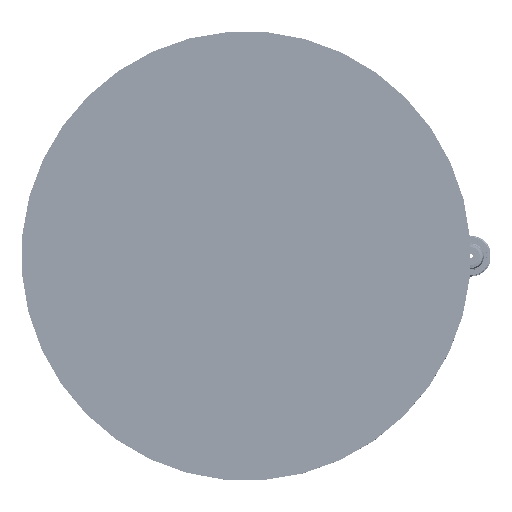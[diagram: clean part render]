
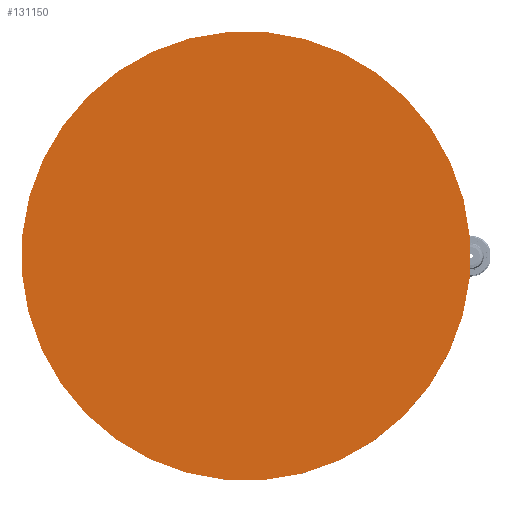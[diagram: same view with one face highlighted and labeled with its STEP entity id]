
A CAD part, top view. The second image highlights one B-rep face of the part: STEP entity #131150.
In plain terms, the highlighted planar face has unit normal (0, 0, 1).
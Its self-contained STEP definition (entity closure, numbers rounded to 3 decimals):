
#884 = CIRCLE ( 'NONE', #76575, 550. ) ;
#1232 = VERTEX_POINT ( 'NONE', #59321 ) ;
#19811 = PLANE ( 'NONE',  #21664 ) ;
#21664 = AXIS2_PLACEMENT_3D ( 'NONE', #113022, #40608, #42066 ) ;
#23845 = AXIS2_PLACEMENT_3D ( 'NONE', #214245, #166910, #82461 ) ;
#40608 = DIRECTION ( 'NONE',  ( 0., 0., 1. ) ) ;
#42066 = DIRECTION ( 'NONE',  ( 1., 0., 0. ) ) ;
#59321 = CARTESIAN_POINT ( 'NONE',  ( 550., 0., 100. ) ) ;
#76575 = AXIS2_PLACEMENT_3D ( 'NONE', #81537, #149618, #167427 ) ;
#81537 = CARTESIAN_POINT ( 'NONE',  ( 0., 0., 100. ) ) ;
#82461 = DIRECTION ( 'NONE',  ( 1., 0., 0. ) ) ;
#84521 = ORIENTED_EDGE ( 'NONE', *, *, #245365, .T. ) ;
#105536 = VERTEX_POINT ( 'NONE', #209021 ) ;
#113022 = CARTESIAN_POINT ( 'NONE',  ( 0., 0., 100. ) ) ;
#125982 = EDGE_CURVE ( 'NONE', #105536, #1232, #884, .T. ) ;
#129208 = EDGE_LOOP ( 'NONE', ( #269140, #84521 ) ) ;
#131150 = ADVANCED_FACE ( 'NONE', ( #135235 ), #19811, .T. ) ;
#135235 = FACE_OUTER_BOUND ( 'NONE', #129208, .T. ) ;
#149618 = DIRECTION ( 'NONE',  ( 0., 0., 1. ) ) ;
#166910 = DIRECTION ( 'NONE',  ( 0., 0., 1. ) ) ;
#167427 = DIRECTION ( 'NONE',  ( 1., 0., 0. ) ) ;
#209021 = CARTESIAN_POINT ( 'NONE',  ( -550., 0., 100. ) ) ;
#214245 = CARTESIAN_POINT ( 'NONE',  ( 0., 0., 100. ) ) ;
#245365 = EDGE_CURVE ( 'NONE', #1232, #105536, #245896, .T. ) ;
#245896 = CIRCLE ( 'NONE', #23845, 550. ) ;
#269140 = ORIENTED_EDGE ( 'NONE', *, *, #125982, .T. ) ;
